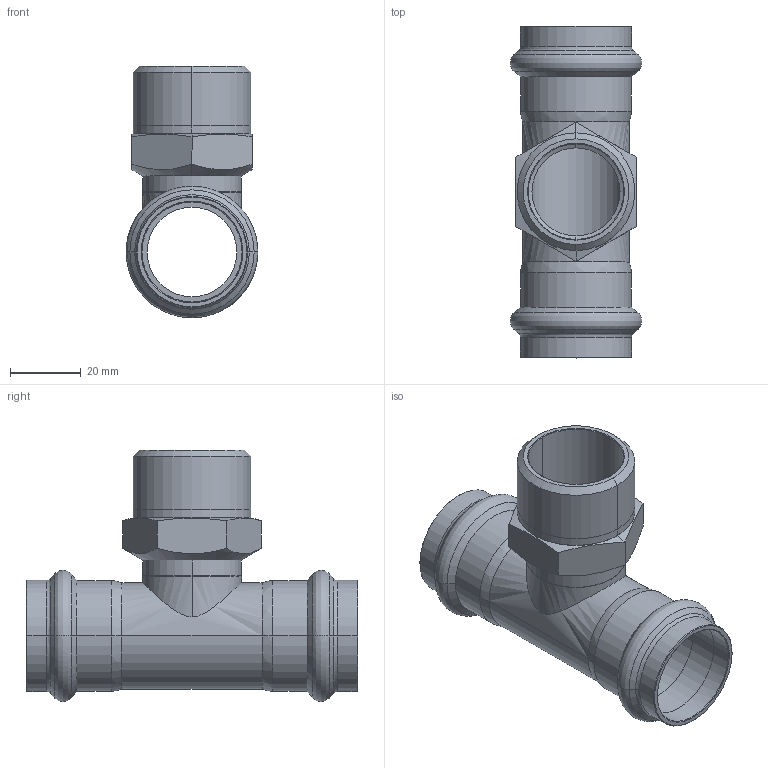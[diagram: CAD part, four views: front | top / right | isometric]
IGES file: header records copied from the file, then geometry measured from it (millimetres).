
Start section: Elysium IGES Interface
Global section: file name: C:\Users\Wallenburg\Desktop\3d modellen sudo\S-Pr VP\SP6132GV\6132GVW28128.igs; native system: CoCreate Modeling 17.00A  17-Jun-2010; preprocessor: CoCreate IGES_3D V2.2; author: Unknown; organization: Unknown; date: 20130123.162608; units: millimetre
Bounding box: 37.2 x 93.81 x 71.09 mm (x, y, z)
Volume: 26958.1 mm3; surface area: 25706.5 mm2
Topology: 1 solids, 1 shells, 114 faces, 250 edges, 144 vertices
Faces by surface type: bspline 114
